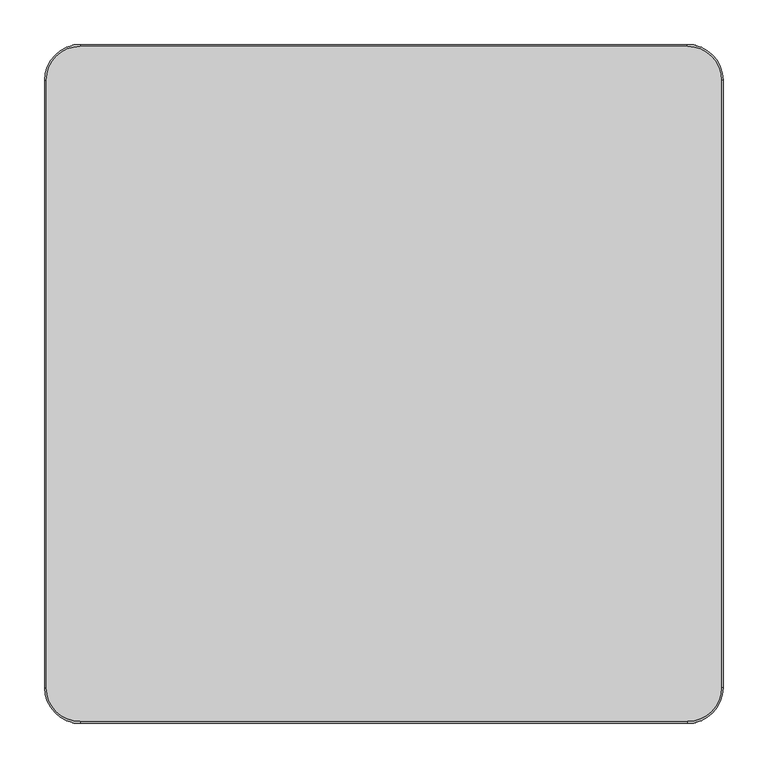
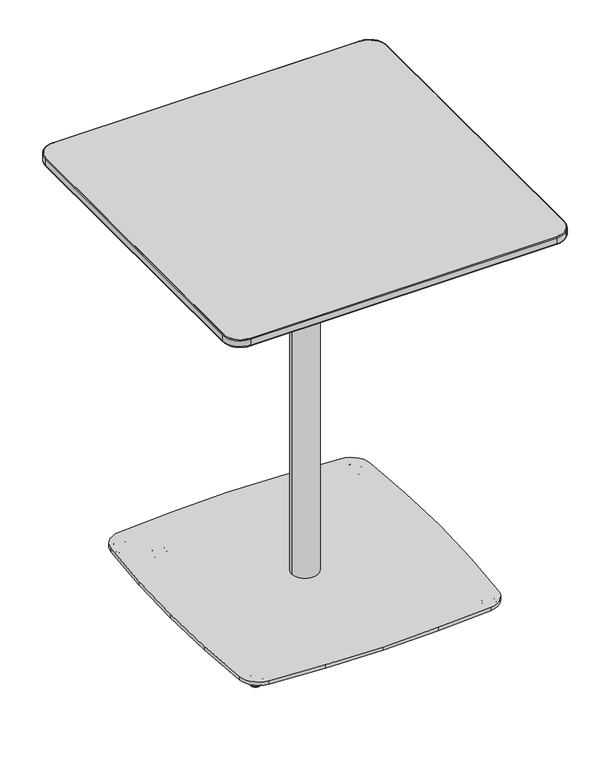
"""IFC4 building model written with IfcOpenShell, lengths in millimetres: furniture geometry, Coalesse_AM_Table_Occasional_Montara650Table_CafeHeight_Square : Counter Height - 30D x 30W."""

from ifc_helpers import new_model, si_unit, point, frame, frame_2d, origin, place, context, project, spatial, polyline, circle_curve, ellipse_curve, trimmed, segment, composite_curve, outline, extrude, source, transform, mapped, element, save
from ifc_brep_helpers import plane_surface, cylinder_surface, revolved_surface, spline_surface, advanced_brep


def furniture_3e236883(model_context):
    return source(origin(), model_context, "Body", "SolidModel", [
        advanced_brep(
        [(252.3158533, 252.1363755, 0.0), (267.0011381, 266.8216603, 0.0), (259.6584957, 259.4790179, 0.0), (251.7693511, 251.5898733, 0.5718943), (267.5476403, 267.3681625, 0.5718943), (249.470252, 249.2907742, 11.2068005), (269.8467394, 269.6672616, 11.2068005), (249.8852728, 249.705795, 11.9999882), (269.4317186, 269.2522408, 11.9999882), (259.6584957, 259.4790179, 11.9999882)],
        [
            (0, 1, circle_curve(frame((259.6584957, 259.4790179, 0.0), z_axis=(0.0, 0.0, -1.0), x_axis=(0.7071067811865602, 0.7071067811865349, 0.0)), 10.3840645)),
            (1, 2),
            (2, 0),
            (1, 0, circle_curve(frame((259.6584957, 259.4790179, 0.0), z_axis=(0.0, 0.0, -1.0), x_axis=(0.7071067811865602, 0.7071067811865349, 0.0)), 10.3840645)),
            (3, 4, circle_curve(frame((259.6584957, 259.4790179, 0.5718943), z_axis=(0.0, 0.0, -1.0), x_axis=(0.7071067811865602, 0.7071067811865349, 0.0)), 11.1569353)),
            (4, 1, circle_curve(frame((267.0011381, 266.8216603, 0.8081846), z_axis=(-0.7071067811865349, 0.7071067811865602, 0.0), x_axis=(0.7071067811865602, 0.7071067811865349, 0.0)), 0.8081846)),
            (0, 3, circle_curve(frame((252.3158533, 252.1363755, 0.8081846), z_axis=(-0.7071067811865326, 0.7071067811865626, 0.0), x_axis=(-0.7071067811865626, -0.7071067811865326, 0.0)), 0.8081846)),
            (4, 3, circle_curve(frame((259.6584957, 259.4790179, 0.5718943), z_axis=(0.0, 0.0, -1.0), x_axis=(0.7071067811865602, 0.7071067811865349, 0.0)), 11.1569353)),
            (5, 6, circle_curve(frame((259.6584957, 259.4790179, 11.2068005), z_axis=(0.0, 0.0, -1.0), x_axis=(0.7071067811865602, 0.7071067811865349, 0.0)), 14.4083524)),
            (6, 4),
            (3, 5),
            (6, 5, circle_curve(frame((259.6584957, 259.4790179, 11.2068005), z_axis=(0.0, 0.0, -1.0), x_axis=(0.7071067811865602, 0.7071067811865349, 0.0)), 14.4083524)),
            (7, 8, circle_curve(frame((259.6584957, 259.4790179, 11.9999882), z_axis=(0.0, 0.0, -1.0), x_axis=(0.7071067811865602, 0.7071067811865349, 0.0)), 13.8214243)),
            (8, 6, circle_curve(frame((269.4317186, 269.2522408, 11.3862424), z_axis=(-0.7071067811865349, 0.7071067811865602, 0.0), x_axis=(0.7071067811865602, 0.7071067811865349, 0.0)), 0.6137458)),
            (5, 7, circle_curve(frame((249.8852728, 249.705795, 11.3862424), z_axis=(-0.7071067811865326, 0.7071067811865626, 0.0), x_axis=(-0.7071067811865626, -0.7071067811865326, 0.0)), 0.6137458)),
            (8, 7, circle_curve(frame((259.6584957, 259.4790179, 11.9999882), z_axis=(0.0, 0.0, -1.0), x_axis=(0.7071067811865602, 0.7071067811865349, 0.0)), 13.8214243)),
            (9, 8),
            (7, 9),
        ],
        [
            plane_surface(frame((259.6584957, 259.4790179, 0.0), z_axis=(0.0, 0.0, -1.0000000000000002), x_axis=(0.7071067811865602, 0.7071067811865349, 0.0))),
            revolved_surface(trimmed(ellipse_curve(frame((267.0011381, 266.8216603, 0.8081846), z_axis=(0.7071067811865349, -0.7071067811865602, 0.0), x_axis=(0.7071067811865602, 0.7071067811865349, 0.0)), 0.8081846, 0.8081846), [point((267.0011381, 266.8216603, 0.0))], [point((267.5476403, 267.3681625, 0.5718943))], True, "CARTESIAN"), (259.6584957, 259.4790179, 12.2086845), (0.0, 0.0, 1.0)),
            revolved_surface(polyline([(267.5476403, 267.3681625, 0.5718943), (269.8467394, 269.6672616, 11.2068005)]), (259.6584957, 259.4790179, 12.2086845), (0.0, 0.0, 1.0)),
            revolved_surface(trimmed(ellipse_curve(frame((269.4317186, 269.2522408, 11.3862424), z_axis=(0.7071067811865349, -0.7071067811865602, 0.0), x_axis=(0.7071067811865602, 0.7071067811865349, 0.0)), 0.6137458, 0.6137458), [point((269.8467394, 269.6672616, 11.2068005))], [point((269.4317186, 269.2522408, 11.9999882))], True, "CARTESIAN"), (259.6584957, 259.4790179, 12.2086845), (0.0, 0.0, 1.0)),
            plane_surface(frame((259.6584957, 259.4790179, 11.9999882), z_axis=(0.0, 0.0, 1.0000000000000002), x_axis=(0.7071067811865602, 0.7071067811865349, 0.0))),
        ],
        [
            (0, [[1, 2, 3]]),
            (0, [[4, -3, -2]]),
            (1, [[5, 6, -1, 7]]),
            (1, [[8, -7, -4, -6]]),
            (2, [[9, 10, -5, 11]]),
            (2, [[12, -11, -8, -10]]),
            (3, [[13, 14, -9, 15]]),
            (3, [[16, -15, -12, -14]]),
            (4, [[17, -13, 18]]),
            (4, [[-18, -16, -17]]),
        ],
    ),
        advanced_brep(
        [(259.8015382, -259.9111532, 0.0), (267.1441807, -267.2537956, 0.0), (252.4588958, -252.5685107, 0.0), (267.6906828, -267.8002977, 0.5718943), (251.9123937, -252.0220086, 0.5718943), (269.9897819, -270.0993968, 11.2068005), (249.6132946, -249.7229095, 11.2068005), (269.5747611, -269.684376, 11.9999882), (250.0283154, -250.1379303, 11.9999882), (259.8015382, -259.9111532, 11.9999882)],
        [
            (0, 1),
            (1, 2, circle_curve(frame((259.8015382, -259.9111532, 0.0), z_axis=(0.0, 0.0, -1.0), x_axis=(0.7071067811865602, -0.7071067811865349, 0.0)), 10.3840645)),
            (2, 0),
            (2, 1, circle_curve(frame((259.8015382, -259.9111532, 0.0), z_axis=(0.0, 0.0, -1.0), x_axis=(0.7071067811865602, -0.7071067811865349, 0.0)), 10.3840645)),
            (1, 3, circle_curve(frame((267.1441807, -267.2537956, 0.8081846), z_axis=(-0.7071067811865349, -0.7071067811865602, 0.0), x_axis=(0.7071067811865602, -0.7071067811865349, 0.0)), 0.8081846)),
            (3, 4, circle_curve(frame((259.8015382, -259.9111532, 0.5718943), z_axis=(0.0, 0.0, -1.0), x_axis=(0.7071067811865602, -0.7071067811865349, 0.0)), 11.1569353)),
            (4, 2, circle_curve(frame((252.4588958, -252.5685107, 0.8081846), z_axis=(-0.7071067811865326, -0.7071067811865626, 0.0), x_axis=(-0.7071067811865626, 0.7071067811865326, 0.0)), 0.8081846)),
            (4, 3, circle_curve(frame((259.8015382, -259.9111532, 0.5718943), z_axis=(0.0, 0.0, -1.0), x_axis=(0.7071067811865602, -0.7071067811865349, 0.0)), 11.1569353)),
            (3, 5),
            (5, 6, circle_curve(frame((259.8015382, -259.9111532, 11.2068005), z_axis=(0.0, 0.0, -1.0), x_axis=(0.7071067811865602, -0.7071067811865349, 0.0)), 14.4083524)),
            (6, 4),
            (6, 5, circle_curve(frame((259.8015382, -259.9111532, 11.2068005), z_axis=(0.0, 0.0, -1.0), x_axis=(0.7071067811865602, -0.7071067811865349, 0.0)), 14.4083524)),
            (5, 7, circle_curve(frame((269.5747611, -269.684376, 11.3862424), z_axis=(-0.7071067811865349, -0.7071067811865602, 0.0), x_axis=(0.7071067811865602, -0.7071067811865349, 0.0)), 0.6137458)),
            (7, 8, circle_curve(frame((259.8015382, -259.9111532, 11.9999882), z_axis=(0.0, 0.0, -1.0), x_axis=(0.7071067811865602, -0.7071067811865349, 0.0)), 13.8214243)),
            (8, 6, circle_curve(frame((250.0283154, -250.1379303, 11.3862424), z_axis=(-0.7071067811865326, -0.7071067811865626, 0.0), x_axis=(-0.7071067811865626, 0.7071067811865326, 0.0)), 0.6137458)),
            (8, 7, circle_curve(frame((259.8015382, -259.9111532, 11.9999882), z_axis=(0.0, 0.0, -1.0), x_axis=(0.7071067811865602, -0.7071067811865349, 0.0)), 13.8214243)),
            (7, 9),
            (9, 8),
        ],
        [
            plane_surface(frame((259.8015382, -259.9111532, 0.0), z_axis=(0.0, 0.0, -1.0000000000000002), x_axis=(0.7071067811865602, -0.7071067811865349, 0.0))),
            revolved_surface(trimmed(ellipse_curve(frame((267.1441807, -267.2537956, 0.8081846), z_axis=(0.7071067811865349, 0.7071067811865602, 0.0), x_axis=(0.7071067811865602, -0.7071067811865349, 0.0)), 0.8081846, 0.8081846), [point((267.6906828, -267.8002977, 0.5718943))], [point((267.1441807, -267.2537956, 0.0))], True, "CARTESIAN"), (259.8015382, -259.9111532, 12.2086845), (0.0, 0.0, -1.0)),
            revolved_surface(polyline([(269.9897819, -270.0993968, 11.2068005), (267.6906828, -267.8002977, 0.5718943)]), (259.8015382, -259.9111532, 12.2086845), (0.0, 0.0, -1.0)),
            revolved_surface(trimmed(ellipse_curve(frame((269.5747611, -269.684376, 11.3862424), z_axis=(0.7071067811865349, 0.7071067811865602, 0.0), x_axis=(0.7071067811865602, -0.7071067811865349, 0.0)), 0.6137458, 0.6137458), [point((269.5747611, -269.684376, 11.9999882))], [point((269.9897819, -270.0993968, 11.2068005))], True, "CARTESIAN"), (259.8015382, -259.9111532, 12.2086845), (0.0, 0.0, -1.0)),
            plane_surface(frame((259.8015382, -259.9111532, 11.9999882), z_axis=(0.0, 0.0, 1.0000000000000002), x_axis=(0.7071067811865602, -0.7071067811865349, 0.0))),
        ],
        [
            (0, [[1, 2, 3]]),
            (0, [[-3, 4, -1]]),
            (1, [[-2, 5, 6, 7]]),
            (1, [[-4, -7, 8, -5]]),
            (2, [[-6, 9, 10, 11]]),
            (2, [[-8, -11, 12, -9]]),
            (3, [[-10, 13, 14, 15]]),
            (3, [[-12, -15, 16, -13]]),
            (4, [[-14, 17, 18]]),
            (4, [[-16, -18, -17]]),
        ],
    ),
        extrude(outline(composite_curve([segment(trimmed(circle_curve(frame_2d((-243.9942116, 243.996709)), 44.45), [point((-288.3392595, 247.0494508))], [point((-247.0469534, 288.3417568))], False, "CARTESIAN"), True, "CONTINUOUS"), segment(polyline([(-247.0469534, 288.3417568), (-126.1187996, 296.6665291), (-0.0009163, 300.0012093), (126.116967, 296.6665291), (247.0474572, 288.341596)]), True, "CONTINUOUS"), segment(trimmed(circle_curve(frame_2d((243.9947155, 243.9965482)), 44.45), [point((247.0474572, 288.341596))], [point((288.3397633, 247.0492899))], False, "CARTESIAN"), True, "CONTINUOUS"), segment(polyline([(288.3397633, 247.0492899), (296.6646964, 126.1187996), (299.9993766, 0.0009163), (296.6646964, -126.116967), (288.3399178, -247.0452123)]), True, "CONTINUOUS"), segment(trimmed(circle_curve(frame_2d((243.99487, -243.9924705)), 44.45), [point((288.3399178, -247.0452123))], [point((247.0484272, -288.3374622))], False, "CARTESIAN"), True, "CONTINUOUS"), segment(polyline([(247.0484272, -288.3374622), (126.116967, -296.6646964), (-0.0009163, -299.9993766), (-126.1187996, -296.6646964), (-247.0479234, -288.3376231)]), True, "CONTINUOUS"), segment(trimmed(circle_curve(frame_2d((-243.9943662, -243.9926314)), 44.45), [point((-247.0479234, -288.3376231))], [point((-288.339414, -247.0453732))], False, "CARTESIAN"), True, "CONTINUOUS"), segment(polyline([(-288.339414, -247.0453732), (-296.6642037, -126.116967), (-299.9988839, 0.0009163), (-296.6642037, 126.1187996), (-288.3392595, 247.0494508)]), True, "CONTINUOUS")], self_intersect=False)), frame((0.0, 0.0, 11.9999882), z_axis=(0.0, 0.0, 1.0), x_axis=(1.0, 0.0, 0.0)), (0.0, 0.0, 1.0), 8.0000083),
        advanced_brep(
        [(-259.8122576, 259.6204684, 0.0), (-267.1549, 266.9631108, 0.0), (-252.4696151, 252.277826, 0.0), (-267.7014021, 267.509613, 0.5718943), (-251.923113, 251.7313238, 0.5718943), (-270.0005012, 269.8087121, 11.2068005), (-249.6240139, 249.4322247, 11.2068005), (-269.5854804, 269.3936913, 11.9999882), (-250.0390347, 249.8472455, 11.9999882), (-259.8122576, 259.6204684, 11.9999882)],
        [
            (0, 1),
            (1, 2, circle_curve(frame((-259.8122576, 259.6204684, 0.0), z_axis=(0.0, 0.0, -1.0), x_axis=(-0.7071067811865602, 0.7071067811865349, 0.0)), 10.3840645)),
            (2, 0),
            (2, 1, circle_curve(frame((-259.8122576, 259.6204684, 0.0), z_axis=(0.0, 0.0, -1.0), x_axis=(-0.7071067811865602, 0.7071067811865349, 0.0)), 10.3840645)),
            (1, 3, circle_curve(frame((-267.1549, 266.9631108, 0.8081846), z_axis=(0.7071067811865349, 0.7071067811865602, 0.0), x_axis=(-0.7071067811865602, 0.7071067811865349, 0.0)), 0.8081846)),
            (3, 4, circle_curve(frame((-259.8122576, 259.6204684, 0.5718943), z_axis=(0.0, 0.0, -1.0), x_axis=(-0.7071067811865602, 0.7071067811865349, 0.0)), 11.1569353)),
            (4, 2, circle_curve(frame((-252.4696151, 252.277826, 0.8081846), z_axis=(0.7071067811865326, 0.7071067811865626, 0.0), x_axis=(0.7071067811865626, -0.7071067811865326, 0.0)), 0.8081846)),
            (4, 3, circle_curve(frame((-259.8122576, 259.6204684, 0.5718943), z_axis=(0.0, 0.0, -1.0), x_axis=(-0.7071067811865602, 0.7071067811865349, 0.0)), 11.1569353)),
            (3, 5),
            (5, 6, circle_curve(frame((-259.8122576, 259.6204684, 11.2068005), z_axis=(0.0, 0.0, -1.0), x_axis=(-0.7071067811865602, 0.7071067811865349, 0.0)), 14.4083524)),
            (6, 4),
            (6, 5, circle_curve(frame((-259.8122576, 259.6204684, 11.2068005), z_axis=(0.0, 0.0, -1.0), x_axis=(-0.7071067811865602, 0.7071067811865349, 0.0)), 14.4083524)),
            (5, 7, circle_curve(frame((-269.5854804, 269.3936913, 11.3862424), z_axis=(0.7071067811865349, 0.7071067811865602, 0.0), x_axis=(-0.7071067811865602, 0.7071067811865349, 0.0)), 0.6137458)),
            (7, 8, circle_curve(frame((-259.8122576, 259.6204684, 11.9999882), z_axis=(0.0, 0.0, -1.0), x_axis=(-0.7071067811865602, 0.7071067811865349, 0.0)), 13.8214243)),
            (8, 6, circle_curve(frame((-250.0390347, 249.8472455, 11.3862424), z_axis=(0.7071067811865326, 0.7071067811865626, 0.0), x_axis=(0.7071067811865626, -0.7071067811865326, 0.0)), 0.6137458)),
            (8, 7, circle_curve(frame((-259.8122576, 259.6204684, 11.9999882), z_axis=(0.0, 0.0, -1.0), x_axis=(-0.7071067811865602, 0.7071067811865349, 0.0)), 13.8214243)),
            (7, 9),
            (9, 8),
        ],
        [
            plane_surface(frame((-259.8122576, 259.6204684, 0.0), z_axis=(0.0, 0.0, -1.0000000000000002), x_axis=(-0.7071067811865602, 0.7071067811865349, 0.0))),
            revolved_surface(trimmed(ellipse_curve(frame((-267.1549, 266.9631108, 0.8081846), z_axis=(-0.7071067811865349, -0.7071067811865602, 0.0), x_axis=(-0.7071067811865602, 0.7071067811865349, 0.0)), 0.8081846, 0.8081846), [point((-267.7014021, 267.509613, 0.5718943))], [point((-267.1549, 266.9631108, 0.0))], True, "CARTESIAN"), (-259.8122576, 259.6204684, 12.2086845), (0.0, 0.0, -1.0)),
            revolved_surface(polyline([(-270.0005012, 269.8087121, 11.2068005), (-267.7014021, 267.509613, 0.5718943)]), (-259.8122576, 259.6204684, 12.2086845), (0.0, 0.0, -1.0)),
            revolved_surface(trimmed(ellipse_curve(frame((-269.5854804, 269.3936913, 11.3862424), z_axis=(-0.7071067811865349, -0.7071067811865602, 0.0), x_axis=(-0.7071067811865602, 0.7071067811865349, 0.0)), 0.6137458, 0.6137458), [point((-269.5854804, 269.3936913, 11.9999882))], [point((-270.0005012, 269.8087121, 11.2068005))], True, "CARTESIAN"), (-259.8122576, 259.6204684, 12.2086845), (0.0, 0.0, -1.0)),
            plane_surface(frame((-259.8122576, 259.6204684, 11.9999882), z_axis=(0.0, 0.0, 1.0000000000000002), x_axis=(-0.7071067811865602, 0.7071067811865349, 0.0))),
        ],
        [
            (0, [[1, 2, 3]]),
            (0, [[-3, 4, -1]]),
            (1, [[-2, 5, 6, 7]]),
            (1, [[-4, -7, 8, -5]]),
            (2, [[-6, 9, 10, 11]]),
            (2, [[-8, -11, 12, -9]]),
            (3, [[-10, 13, 14, 15]]),
            (3, [[-12, -15, 16, -13]]),
            (4, [[-14, 17, 18]]),
            (4, [[-16, -18, -17]]),
        ],
    ),
        advanced_brep(
        [(-252.8175248, -252.4969322, 0.0), (-267.5028096, -267.182217, 0.0), (-260.1601672, -259.8395746, 0.0), (-252.2710226, -251.95043, 0.5718943), (-268.0493118, -267.7287192, 0.5718943), (-249.9719235, -249.6513309, 11.2068005), (-270.3484109, -270.0278183, 11.2068005), (-250.3869443, -250.0663517, 11.9999882), (-269.9333901, -269.6127975, 11.9999882), (-260.1601672, -259.8395746, 11.9999882)],
        [
            (0, 1, circle_curve(frame((-260.1601672, -259.8395746, 0.0), z_axis=(0.0, 0.0, -1.0), x_axis=(-0.7071067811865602, -0.7071067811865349, 0.0)), 10.3840645)),
            (1, 2),
            (2, 0),
            (1, 0, circle_curve(frame((-260.1601672, -259.8395746, 0.0), z_axis=(0.0, 0.0, -1.0), x_axis=(-0.7071067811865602, -0.7071067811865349, 0.0)), 10.3840645)),
            (3, 4, circle_curve(frame((-260.1601672, -259.8395746, 0.5718943), z_axis=(0.0, 0.0, -1.0), x_axis=(-0.7071067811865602, -0.7071067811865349, 0.0)), 11.1569353)),
            (4, 1, circle_curve(frame((-267.5028096, -267.182217, 0.8081846), z_axis=(0.7071067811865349, -0.7071067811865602, 0.0), x_axis=(-0.7071067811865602, -0.7071067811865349, 0.0)), 0.8081846)),
            (0, 3, circle_curve(frame((-252.8175248, -252.4969322, 0.8081846), z_axis=(0.7071067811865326, -0.7071067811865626, 0.0), x_axis=(0.7071067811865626, 0.7071067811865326, 0.0)), 0.8081846)),
            (4, 3, circle_curve(frame((-260.1601672, -259.8395746, 0.5718943), z_axis=(0.0, 0.0, -1.0), x_axis=(-0.7071067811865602, -0.7071067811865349, 0.0)), 11.1569353)),
            (5, 6, circle_curve(frame((-260.1601672, -259.8395746, 11.2068005), z_axis=(0.0, 0.0, -1.0), x_axis=(-0.7071067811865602, -0.7071067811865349, 0.0)), 14.4083524)),
            (6, 4),
            (3, 5),
            (6, 5, circle_curve(frame((-260.1601672, -259.8395746, 11.2068005), z_axis=(0.0, 0.0, -1.0), x_axis=(-0.7071067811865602, -0.7071067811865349, 0.0)), 14.4083524)),
            (7, 8, circle_curve(frame((-260.1601672, -259.8395746, 11.9999882), z_axis=(0.0, 0.0, -1.0), x_axis=(-0.7071067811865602, -0.7071067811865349, 0.0)), 13.8214243)),
            (8, 6, circle_curve(frame((-269.9333901, -269.6127975, 11.3862424), z_axis=(0.7071067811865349, -0.7071067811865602, 0.0), x_axis=(-0.7071067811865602, -0.7071067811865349, 0.0)), 0.6137458)),
            (5, 7, circle_curve(frame((-250.3869443, -250.0663517, 11.3862424), z_axis=(0.7071067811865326, -0.7071067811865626, 0.0), x_axis=(0.7071067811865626, 0.7071067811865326, 0.0)), 0.6137458)),
            (8, 7, circle_curve(frame((-260.1601672, -259.8395746, 11.9999882), z_axis=(0.0, 0.0, -1.0), x_axis=(-0.7071067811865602, -0.7071067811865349, 0.0)), 13.8214243)),
            (9, 8),
            (7, 9),
        ],
        [
            plane_surface(frame((-260.1601672, -259.8395746, 0.0), z_axis=(0.0, 0.0, -1.0000000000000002), x_axis=(-0.7071067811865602, -0.7071067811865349, 0.0))),
            revolved_surface(trimmed(ellipse_curve(frame((-267.5028096, -267.182217, 0.8081846), z_axis=(-0.7071067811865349, 0.7071067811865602, 0.0), x_axis=(-0.7071067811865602, -0.7071067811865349, 0.0)), 0.8081846, 0.8081846), [point((-267.5028096, -267.182217, 0.0))], [point((-268.0493118, -267.7287192, 0.5718943))], True, "CARTESIAN"), (-260.1601672, -259.8395746, 12.2086845), (0.0, 0.0, 1.0)),
            revolved_surface(polyline([(-268.0493118, -267.7287192, 0.5718943), (-270.3484109, -270.0278183, 11.2068005)]), (-260.1601672, -259.8395746, 12.2086845), (0.0, 0.0, 1.0)),
            revolved_surface(trimmed(ellipse_curve(frame((-269.9333901, -269.6127975, 11.3862424), z_axis=(-0.7071067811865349, 0.7071067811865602, 0.0), x_axis=(-0.7071067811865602, -0.7071067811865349, 0.0)), 0.6137458, 0.6137458), [point((-270.3484109, -270.0278183, 11.2068005))], [point((-269.9333901, -269.6127975, 11.9999882))], True, "CARTESIAN"), (-260.1601672, -259.8395746, 12.2086845), (0.0, 0.0, 1.0)),
            plane_surface(frame((-260.1601672, -259.8395746, 11.9999882), z_axis=(0.0, 0.0, 1.0000000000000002), x_axis=(-0.7071067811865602, -0.7071067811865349, 0.0))),
        ],
        [
            (0, [[1, 2, 3]]),
            (0, [[4, -3, -2]]),
            (1, [[5, 6, -1, 7]]),
            (1, [[8, -7, -4, -6]]),
            (2, [[9, 10, -5, 11]]),
            (2, [[12, -11, -8, -10]]),
            (3, [[13, 14, -9, 15]]),
            (3, [[16, -15, -12, -14]]),
            (4, [[17, -13, 18]]),
            (4, [[-18, -16, -17]]),
        ],
    ),
        advanced_brep(
        [(-204.8873489, 205.5044028, 0.0), (-212.2299913, 212.8470453, 0.0), (-197.5447065, 198.1617604, 0.0), (-212.7764935, 213.3935474, 0.5718943), (-196.9982043, 197.6152583, 0.5718943), (-215.0755926, 215.6926465, 11.2068005), (-194.6991052, 195.3161592, 11.2068005), (-214.6605718, 215.2776257, 11.9999882), (-195.114126, 195.73118, 11.9999882), (-204.8873489, 205.5044028, 11.9999882)],
        [
            (0, 1),
            (1, 2, circle_curve(frame((-204.8873489, 205.5044028, 0.0), z_axis=(0.0, 0.0, -1.0), x_axis=(-0.7071067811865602, 0.7071067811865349, 0.0)), 10.3840645)),
            (2, 0),
            (2, 1, circle_curve(frame((-204.8873489, 205.5044028, 0.0), z_axis=(0.0, 0.0, -1.0), x_axis=(-0.7071067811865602, 0.7071067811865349, 0.0)), 10.3840645)),
            (1, 3, circle_curve(frame((-212.2299913, 212.8470453, 0.8081846), z_axis=(0.7071067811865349, 0.7071067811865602, 0.0), x_axis=(-0.7071067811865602, 0.7071067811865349, 0.0)), 0.8081846)),
            (3, 4, circle_curve(frame((-204.8873489, 205.5044028, 0.5718943), z_axis=(0.0, 0.0, -1.0), x_axis=(-0.7071067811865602, 0.7071067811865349, 0.0)), 11.1569353)),
            (4, 2, circle_curve(frame((-197.5447065, 198.1617604, 0.8081846), z_axis=(0.7071067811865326, 0.7071067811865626, 0.0), x_axis=(0.7071067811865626, -0.7071067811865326, 0.0)), 0.8081846)),
            (4, 3, circle_curve(frame((-204.8873489, 205.5044028, 0.5718943), z_axis=(0.0, 0.0, -1.0), x_axis=(-0.7071067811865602, 0.7071067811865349, 0.0)), 11.1569353)),
            (3, 5),
            (5, 6, circle_curve(frame((-204.8873489, 205.5044028, 11.2068005), z_axis=(0.0, 0.0, -1.0), x_axis=(-0.7071067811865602, 0.7071067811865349, 0.0)), 14.4083524)),
            (6, 4),
            (6, 5, circle_curve(frame((-204.8873489, 205.5044028, 11.2068005), z_axis=(0.0, 0.0, -1.0), x_axis=(-0.7071067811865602, 0.7071067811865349, 0.0)), 14.4083524)),
            (5, 7, circle_curve(frame((-214.6605718, 215.2776257, 11.3862424), z_axis=(0.7071067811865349, 0.7071067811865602, 0.0), x_axis=(-0.7071067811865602, 0.7071067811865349, 0.0)), 0.6137458)),
            (7, 8, circle_curve(frame((-204.8873489, 205.5044028, 11.9999882), z_axis=(0.0, 0.0, -1.0), x_axis=(-0.7071067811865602, 0.7071067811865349, 0.0)), 13.8214243)),
            (8, 6, circle_curve(frame((-195.114126, 195.73118, 11.3862424), z_axis=(0.7071067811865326, 0.7071067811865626, 0.0), x_axis=(0.7071067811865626, -0.7071067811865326, 0.0)), 0.6137458)),
            (8, 7, circle_curve(frame((-204.8873489, 205.5044028, 11.9999882), z_axis=(0.0, 0.0, -1.0), x_axis=(-0.7071067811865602, 0.7071067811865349, 0.0)), 13.8214243)),
            (7, 9),
            (9, 8),
        ],
        [
            plane_surface(frame((-204.8873489, 205.5044028, 0.0), z_axis=(0.0, 0.0, -1.0000000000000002), x_axis=(-0.7071067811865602, 0.7071067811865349, 0.0))),
            revolved_surface(trimmed(ellipse_curve(frame((-212.2299913, 212.8470453, 0.8081846), z_axis=(-0.7071067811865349, -0.7071067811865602, 0.0), x_axis=(-0.7071067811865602, 0.7071067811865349, 0.0)), 0.8081846, 0.8081846), [point((-212.7764935, 213.3935474, 0.5718943))], [point((-212.2299913, 212.8470453, 0.0))], True, "CARTESIAN"), (-204.8873489, 205.5044028, 12.2086845), (0.0, 0.0, -1.0)),
            revolved_surface(polyline([(-215.0755926, 215.6926465, 11.2068005), (-212.7764935, 213.3935474, 0.5718943)]), (-204.8873489, 205.5044028, 12.2086845), (0.0, 0.0, -1.0)),
            revolved_surface(trimmed(ellipse_curve(frame((-214.6605718, 215.2776257, 11.3862424), z_axis=(-0.7071067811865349, -0.7071067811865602, 0.0), x_axis=(-0.7071067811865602, 0.7071067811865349, 0.0)), 0.6137458, 0.6137458), [point((-214.6605718, 215.2776257, 11.9999882))], [point((-215.0755926, 215.6926465, 11.2068005))], True, "CARTESIAN"), (-204.8873489, 205.5044028, 12.2086845), (0.0, 0.0, -1.0)),
            plane_surface(frame((-204.8873489, 205.5044028, 11.9999882), z_axis=(0.0, 0.0, 1.0000000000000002), x_axis=(-0.7071067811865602, 0.7071067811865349, 0.0))),
        ],
        [
            (0, [[1, 2, 3]]),
            (0, [[-3, 4, -1]]),
            (1, [[-2, 5, 6, 7]]),
            (1, [[-4, -7, 8, -5]]),
            (2, [[-6, 9, 10, 11]]),
            (2, [[-8, -11, 12, -9]]),
            (3, [[-10, 13, 14, 15]]),
            (3, [[-12, -15, 16, -13]]),
            (4, [[-14, 17, 18]]),
            (4, [[-16, -18, -17]]),
        ],
    ),
        advanced_brep(
        [(316.0626362, 316.0635082, 884.430027), (316.0626362, -316.0635082, 884.430027), (-316.0626362, -316.0635082, 884.430027), (-316.0626362, 316.0635082, 884.430027), (340.788625, 378.968, 896.695891), (-340.788625, 378.968, 896.695891), (-378.888625, 340.868, 896.695891), (-378.888625, -340.868, 896.695891), (-340.788625, -378.968, 896.695891), (340.788625, -378.968, 896.695891), (378.888625, -340.868, 896.695891), (378.888625, 340.868, 896.695891)],
        [
            (0, 1),
            (1, 2),
            (2, 3),
            (3, 0),
            (4, 5),
            (5, 6, circle_curve(frame((-340.788625, 340.868, 896.695891), z_axis=(0.0, 0.0, 1.0), x_axis=(1.0, 0.0, 0.0)), 38.1)),
            (6, 7),
            (7, 8, circle_curve(frame((-340.788625, -340.868, 896.695891), z_axis=(0.0, 0.0, 1.0), x_axis=(1.0, 0.0, 0.0)), 38.1)),
            (8, 9),
            (9, 10, circle_curve(frame((340.788625, -340.868, 896.695891), z_axis=(0.0, 0.0, 1.0), x_axis=(1.0, 0.0, 0.0)), 38.1)),
            (10, 11),
            (11, 4, circle_curve(frame((340.788625, 340.868, 896.695891), z_axis=(0.0, 0.0, 1.0), x_axis=(1.0, 0.0, 0.0)), 38.1)),
            (11, 0),
            (0, 4),
            (10, 1),
            (9, 1),
            (8, 2),
            (7, 2),
            (6, 3),
            (5, 3),
        ],
        [
            plane_surface(frame((0.0, 0.0, 884.430027), z_axis=(0.0, 0.0, -1.0), x_axis=(-1.0, 0.0, 0.0))),
            plane_surface(frame((0.0, 0.0, 896.695891), z_axis=(0.0, 0.0, 1.0), x_axis=(-1.0, 0.0, 0.0))),
            spline_surface(2, 1, [[(340.788625, 378.968, 896.695891), (316.0626362, 316.0635082, 884.430027)], [(378.88862500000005, 378.9680000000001, 896.695891), (316.0626362, 316.0635082, 884.430027)], [(378.888625, 340.868, 896.695891), (316.0626362, 316.0635082, 884.430027)]], [3, 3], [2, 2], [0.0, 1.0], [0.0, 1.0], weights=[[1.0, 1.0], [0.707106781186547, 0.707106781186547], [1.0, 1.0]]),
            plane_surface(frame((378.888625, 0.0, 896.695891), z_axis=(0.1916177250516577, 0.0, -0.9814696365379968), x_axis=(0.0, -1.0, 0.0))),
            spline_surface(2, 1, [[(378.888625, -340.868, 896.695891), (316.0626362, -316.0635082, 884.430027)], [(378.88862499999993, -378.96799999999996, 896.695891), (316.0626362, -316.0635082, 884.430027)], [(340.788625, -378.968, 896.695891), (316.0626362, -316.0635082, 884.430027)]], [3, 3], [2, 2], [0.0, 1.0], [0.0, 1.0], weights=[[1.0, 1.0], [0.7071067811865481, 0.7071067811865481], [1.0, 1.0]]),
            plane_surface(frame((0.0, -378.968, 896.695891), z_axis=(0.0, -0.19138735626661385, -0.9815145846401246), x_axis=(-1.0, 0.0, 0.0))),
            spline_surface(2, 1, [[(-340.788625, -378.968, 896.695891), (-316.0626362, -316.0635082, 884.430027)], [(-378.88862500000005, -378.9680000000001, 896.695891), (-316.0626362, -316.0635082, 884.430027)], [(-378.888625, -340.868, 896.695891), (-316.0626362, -316.0635082, 884.430027)]], [3, 3], [2, 2], [0.0, 1.0], [0.0, 1.0], weights=[[1.0, 1.0], [0.707106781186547, 0.707106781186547], [1.0, 1.0]]),
            plane_surface(frame((-378.888625, 0.0, 896.695891), z_axis=(-0.1916177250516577, 0.0, -0.9814696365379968), x_axis=(0.0, 1.0, 0.0))),
            spline_surface(2, 1, [[(-378.888625, 340.868, 896.695891), (-316.0626362, 316.0635082, 884.430027)], [(-378.88862499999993, 378.96799999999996, 896.695891), (-316.0626362, 316.0635082, 884.430027)], [(-340.788625, 378.968, 896.695891), (-316.0626362, 316.0635082, 884.430027)]], [3, 3], [2, 2], [0.0, 1.0], [0.0, 1.0], weights=[[1.0, 1.0], [0.7071067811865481, 0.7071067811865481], [1.0, 1.0]]),
            plane_surface(frame((0.0, 378.968, 896.695891), z_axis=(0.0, 0.19138735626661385, -0.9815145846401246), x_axis=(1.0, 0.0, 0.0))),
        ],
        [
            (0, [[1, 2, 3, 4]]),
            (1, [[5, 6, 7, 8, 9, 10, 11, 12]]),
            (2, [[-12, 13, 14]]),
            (3, [[-11, 15, -1, -13]]),
            (4, [[-10, 16, -15]]),
            (5, [[-9, 17, -2, -16]]),
            (6, [[-8, 18, -17]]),
            (7, [[-7, 19, -3, -18]]),
            (8, [[-6, 20, -19]]),
            (9, [[-5, -14, -4, -20]]),
        ],
    ),
        extrude(outline(composite_curve([segment(trimmed(circle_curve(frame_2d((340.788625, 340.868)), 38.1), [point((340.788625, 378.968))], [point((378.888625, 340.868))], False, "CARTESIAN"), True, "CONTINUOUS"), segment(polyline([(378.888625, 340.868), (378.888625, -340.868)]), True, "CONTINUOUS"), segment(trimmed(circle_curve(frame_2d((340.788625, -340.868)), 38.1), [point((378.888625, -340.868))], [point((340.788625, -378.968))], False, "CARTESIAN"), True, "CONTINUOUS"), segment(polyline([(340.788625, -378.968), (-340.788625, -378.968)]), True, "CONTINUOUS"), segment(trimmed(circle_curve(frame_2d((-340.788625, -340.868)), 38.1), [point((-340.788625, -378.968))], [point((-378.888625, -340.868))], False, "CARTESIAN"), True, "CONTINUOUS"), segment(polyline([(-378.888625, -340.868), (-378.888625, 340.868)]), True, "CONTINUOUS"), segment(trimmed(circle_curve(frame_2d((-340.788625, 340.868)), 38.1), [point((-378.888625, 340.868))], [point((-340.788625, 378.968))], False, "CARTESIAN"), True, "CONTINUOUS"), segment(polyline([(-340.788625, 378.968), (340.788625, 378.968)]), True, "CONTINUOUS")], self_intersect=False)), frame((0.0, 0.0, 896.695891), z_axis=(0.0, 0.0, 1.0), x_axis=(1.0, 0.0, 0.0)), (0.0, 0.0, 1.0), 17.704109),
        advanced_brep(
        [(-380.9644915, 340.868, 898.6278467), (-340.788625, 381.0438665, 898.6278467), (-340.788625, 378.968, 896.695891), (-378.888625, 340.868, 896.695891), (-380.9644915, 340.868, 912.3999283), (-340.788625, 381.0438665, 912.3999283), (-378.888625, 340.868, 914.4), (-340.788625, 378.968, 914.4), (-378.888625, -340.868, 896.695891), (-380.9644915, -340.868, 898.6278467), (-380.9644915, -340.868, 912.3999283), (-378.888625, -340.868, 914.4), (-340.788625, -381.0438665, 898.6278467), (-340.788625, -378.968, 896.695891), (-340.788625, -381.0438665, 912.3999283), (-340.788625, -378.968, 914.4), (340.788625, -378.968, 896.695891), (340.788625, -381.0438665, 898.6278467), (340.788625, -381.0438665, 912.3999283), (340.788625, -378.968, 914.4), (380.9644915, -340.868, 898.6278467), (378.888625, -340.868, 896.695891), (380.9644915, -340.868, 912.3999283), (378.888625, -340.868, 914.4), (378.888625, 340.868, 896.695891), (380.9644915, 340.868, 898.6278467), (380.9644915, 340.868, 912.3999283), (378.888625, 340.868, 914.4), (340.788625, 381.0438665, 898.6278467), (340.788625, 378.968, 896.695891), (340.788625, 381.0438665, 912.3999283), (340.788625, 378.968, 914.4)],
        [
            (0, 1, circle_curve(frame((-340.788625, 340.868, 898.6278467), z_axis=(0.0, 0.0, -1.0), x_axis=(0.0, 1.0, 0.0)), 40.1758665)),
            (1, 2, circle_curve(frame((-340.788625, 379.1069224, 898.6278467), z_axis=(-1.0, 0.0, 0.0), x_axis=(0.0, -1.0, 0.0)), 1.9369441)),
            (2, 3, circle_curve(frame((-340.788625, 340.868, 896.695891), z_axis=(0.0, 0.0, 1.0), x_axis=(0.0, 1.0, 0.0)), 38.1)),
            (3, 0, circle_curve(frame((-379.0275474, 340.868, 898.6278467), z_axis=(0.0, 1.0, 0.0), x_axis=(1.0, 0.0, 0.0)), 1.9369441)),
            (4, 5, circle_curve(frame((-340.788625, 340.868, 912.3999283), z_axis=(0.0, 0.0, -1.0), x_axis=(0.0, 1.0, 0.0)), 40.1758665)),
            (5, 1),
            (0, 4),
            (6, 7, circle_curve(frame((-340.788625, 340.868, 914.4), z_axis=(0.0, 0.0, -1.0), x_axis=(0.0, 1.0, 0.0)), 38.1)),
            (7, 5, circle_curve(frame((-340.788625, 379.0424111, 912.3999283), z_axis=(-1.0, 0.0, 0.0), x_axis=(0.0, -1.0, 0.0)), 2.0014554)),
            (4, 6, circle_curve(frame((-378.9630361, 340.868, 912.3999283), z_axis=(0.0, 1.0, 0.0), x_axis=(1.0, 0.0, 0.0)), 2.0014554)),
            (2, 7),
            (6, 3),
            (3, 8),
            (8, 9, circle_curve(frame((-379.0275474, -340.868, 898.6278467), z_axis=(0.0, 1.0, 0.0), x_axis=(1.0, 0.0, 0.0)), 1.9369441)),
            (9, 0),
            (9, 10),
            (10, 4),
            (10, 11, circle_curve(frame((-378.9630361, -340.868, 912.3999283), z_axis=(0.0, 1.0, 0.0), x_axis=(1.0, 0.0, 0.0)), 2.0014554)),
            (11, 6),
            (11, 8),
            (12, 9, circle_curve(frame((-340.788625, -340.868, 898.6278467), z_axis=(0.0, 0.0, -1.0), x_axis=(-1.0, 0.0, 0.0)), 40.1758665)),
            (8, 13, circle_curve(frame((-340.788625, -340.868, 896.695891), z_axis=(0.0, 0.0, 1.0), x_axis=(-1.0, 0.0, 0.0)), 38.1)),
            (13, 12, circle_curve(frame((-340.788625, -379.1069224, 898.6278467), z_axis=(-1.0, 0.0, 0.0), x_axis=(0.0, 1.0, 0.0)), 1.9369441)),
            (14, 10, circle_curve(frame((-340.788625, -340.868, 912.3999283), z_axis=(0.0, 0.0, -1.0), x_axis=(-1.0, 0.0, 0.0)), 40.1758665)),
            (12, 14),
            (15, 11, circle_curve(frame((-340.788625, -340.868, 914.4), z_axis=(0.0, 0.0, -1.0), x_axis=(-1.0, 0.0, 0.0)), 38.1)),
            (14, 15, circle_curve(frame((-340.788625, -379.0424111, 912.3999283), z_axis=(-1.0, 0.0, 0.0), x_axis=(0.0, 1.0, 0.0)), 2.0014554)),
            (15, 13),
            (13, 16),
            (16, 17, circle_curve(frame((340.788625, -379.1069224, 898.6278467), z_axis=(-1.0, 0.0, 0.0), x_axis=(0.0, 1.0, 0.0)), 1.9369441)),
            (17, 12),
            (17, 18),
            (18, 14),
            (18, 19, circle_curve(frame((340.788625, -379.0424111, 912.3999283), z_axis=(-1.0, 0.0, 0.0), x_axis=(0.0, 1.0, 0.0)), 2.0014554)),
            (19, 15),
            (19, 16),
            (20, 17, circle_curve(frame((340.788625, -340.868, 898.6278467), z_axis=(0.0, 0.0, -1.0), x_axis=(0.0, -1.0, 0.0)), 40.1758665)),
            (16, 21, circle_curve(frame((340.788625, -340.868, 896.695891), z_axis=(0.0, 0.0, 1.0), x_axis=(0.0, -1.0, 0.0)), 38.1)),
            (21, 20, circle_curve(frame((379.0275474, -340.868, 898.6278467), z_axis=(0.0, -1.0, 0.0), x_axis=(-1.0, 0.0, 0.0)), 1.9369441)),
            (22, 18, circle_curve(frame((340.788625, -340.868, 912.3999283), z_axis=(0.0, 0.0, -1.0), x_axis=(0.0, -1.0, 0.0)), 40.1758665)),
            (20, 22),
            (23, 19, circle_curve(frame((340.788625, -340.868, 914.4), z_axis=(0.0, 0.0, -1.0), x_axis=(0.0, -1.0, 0.0)), 38.1)),
            (22, 23, circle_curve(frame((378.9630361, -340.868, 912.3999283), z_axis=(0.0, -1.0, 0.0), x_axis=(-1.0, 0.0, 0.0)), 2.0014554)),
            (23, 21),
            (21, 24),
            (24, 25, circle_curve(frame((379.0275474, 340.868, 898.6278467), z_axis=(0.0, -1.0, 0.0), x_axis=(-1.0, 0.0, 0.0)), 1.9369441)),
            (25, 20),
            (25, 26),
            (26, 22),
            (26, 27, circle_curve(frame((378.9630361, 340.868, 912.3999283), z_axis=(0.0, -1.0, 0.0), x_axis=(-1.0, 0.0, 0.0)), 2.0014554)),
            (27, 23),
            (27, 24),
            (28, 25, circle_curve(frame((340.788625, 340.868, 898.6278467), z_axis=(0.0, 0.0, -1.0), x_axis=(1.0, 0.0, 0.0)), 40.1758665)),
            (24, 29, circle_curve(frame((340.788625, 340.868, 896.695891), z_axis=(0.0, 0.0, 1.0), x_axis=(1.0, 0.0, 0.0)), 38.1)),
            (29, 28, circle_curve(frame((340.788625, 379.1069224, 898.6278467), z_axis=(1.0, 0.0, 0.0), x_axis=(0.0, -1.0, 0.0)), 1.9369441)),
            (30, 26, circle_curve(frame((340.788625, 340.868, 912.3999283), z_axis=(0.0, 0.0, -1.0), x_axis=(1.0, 0.0, 0.0)), 40.1758665)),
            (28, 30),
            (31, 27, circle_curve(frame((340.788625, 340.868, 914.4), z_axis=(0.0, 0.0, -1.0), x_axis=(1.0, 0.0, 0.0)), 38.1)),
            (30, 31, circle_curve(frame((340.788625, 379.0424111, 912.3999283), z_axis=(1.0, 0.0, 0.0), x_axis=(0.0, -1.0, 0.0)), 2.0014554)),
            (31, 29),
            (29, 2),
            (1, 28),
            (5, 30),
            (7, 31),
        ],
        [
            revolved_surface(trimmed(ellipse_curve(frame((-340.788625, 379.1069224, 898.6278467), z_axis=(1.0, 0.0, 0.0), x_axis=(0.0, -1.0, 0.0)), 1.9369441, 1.9369441), [point((-340.788625, 378.968, 896.695891))], [point((-340.788625, 381.0438665, 898.6278467))], True, "CARTESIAN"), (-340.788625, 340.868, 0.0), (0.0, 0.0, 1.0)),
            cylinder_surface(frame((-340.788625, 340.868, 0.0), z_axis=(0.0, 0.0, 1.0), x_axis=(0.0, 1.0, 0.0)), 40.1758665),
            revolved_surface(trimmed(ellipse_curve(frame((-340.788625, 379.0424111, 912.3999283), z_axis=(1.0, 0.0, 0.0), x_axis=(0.0, -1.0, 0.0)), 2.0014554, 2.0014554), [point((-340.788625, 381.0438665, 912.3999283))], [point((-340.788625, 378.968, 914.4))], True, "CARTESIAN"), (-340.788625, 340.868, 0.0), (0.0, 0.0, 1.0)),
            revolved_surface(polyline([(-340.788625, 378.968, 914.4), (-340.788625, 378.968, 896.695891)]), (-340.788625, 340.868, 0.0), (0.0, 0.0, 1.0)),
            cylinder_surface(frame((-379.0275474, 340.868, 898.6278467), z_axis=(0.0, 1.0, 0.0), x_axis=(1.0, 0.0, 0.0)), 1.9369441),
            plane_surface(frame((-380.9644915, 340.868, 898.6278467), z_axis=(-1.0, 0.0, 0.0), x_axis=(0.0, -1.0, 0.0))),
            cylinder_surface(frame((-378.9630361, 340.868, 912.3999283), z_axis=(0.0, 1.0, 0.0), x_axis=(1.0, 0.0, 0.0)), 2.0014554),
            plane_surface(frame((-378.888625, 340.868, 914.4), z_axis=(1.0, 0.0, 0.0), x_axis=(0.0, -1.0, 0.0))),
            revolved_surface(trimmed(ellipse_curve(frame((-379.0275474, -340.868, 898.6278467), z_axis=(0.0, 1.0, 0.0), x_axis=(1.0, 0.0, 0.0)), 1.9369441, 1.9369441), [point((-378.888625, -340.868, 896.695891))], [point((-380.9644915, -340.868, 898.6278467))], True, "CARTESIAN"), (-340.788625, -340.868, 0.0), (0.0, 0.0, 1.0)),
            cylinder_surface(frame((-340.788625, -340.868, 0.0), z_axis=(0.0, 0.0, 1.0), x_axis=(-1.0, 0.0, 0.0)), 40.1758665),
            revolved_surface(trimmed(ellipse_curve(frame((-378.9630361, -340.868, 912.3999283), z_axis=(0.0, 1.0, 0.0), x_axis=(1.0, 0.0, 0.0)), 2.0014554, 2.0014554), [point((-380.9644915, -340.868, 912.3999283))], [point((-378.888625, -340.868, 914.4))], True, "CARTESIAN"), (-340.788625, -340.868, 0.0), (0.0, 0.0, 1.0)),
            revolved_surface(polyline([(-378.88862500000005, -340.868, 914.4), (-378.88862500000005, -340.868, 896.695891)]), (-340.788625, -340.868, 0.0), (0.0, 0.0, 1.0)),
            cylinder_surface(frame((-340.788625, -379.1069224, 898.6278467), z_axis=(-1.0, 0.0, 0.0), x_axis=(0.0, 1.0, 0.0)), 1.9369441),
            plane_surface(frame((-340.788625, -381.0438665, 898.6278467), z_axis=(0.0, -1.0, 0.0), x_axis=(1.0, 0.0, 0.0))),
            cylinder_surface(frame((-340.788625, -379.0424111, 912.3999283), z_axis=(-1.0, 0.0, 0.0), x_axis=(0.0, 1.0, 0.0)), 2.0014554),
            plane_surface(frame((-340.788625, -378.968, 914.4), z_axis=(0.0, 1.0, 0.0), x_axis=(1.0, 0.0, 0.0))),
            revolved_surface(trimmed(ellipse_curve(frame((340.788625, -379.1069224, 898.6278467), z_axis=(-1.0, 0.0, 0.0), x_axis=(0.0, 1.0, 0.0)), 1.9369441, 1.9369441), [point((340.788625, -378.968, 896.695891))], [point((340.788625, -381.0438665, 898.6278467))], True, "CARTESIAN"), (340.788625, -340.868, 0.0), (0.0, 0.0, 1.0)),
            cylinder_surface(frame((340.788625, -340.868, 0.0), z_axis=(0.0, 0.0, 1.0), x_axis=(0.0, -1.0, 0.0)), 40.1758665),
            revolved_surface(trimmed(ellipse_curve(frame((340.788625, -379.0424111, 912.3999283), z_axis=(-1.0, 0.0, 0.0), x_axis=(0.0, 1.0, 0.0)), 2.0014554, 2.0014554), [point((340.788625, -381.0438665, 912.3999283))], [point((340.788625, -378.968, 914.4))], True, "CARTESIAN"), (340.788625, -340.868, 0.0), (0.0, 0.0, 1.0)),
            revolved_surface(polyline([(340.788625, -378.968, 914.4), (340.788625, -378.968, 896.695891)]), (340.788625, -340.868, 0.0), (0.0, 0.0, 1.0)),
            cylinder_surface(frame((379.0275474, -340.868, 898.6278467), z_axis=(0.0, -1.0, 0.0), x_axis=(-1.0, 0.0, 0.0)), 1.9369441),
            plane_surface(frame((380.9644915, -340.868, 898.6278467), z_axis=(1.0, 0.0, 0.0), x_axis=(0.0, 1.0, 0.0))),
            cylinder_surface(frame((378.9630361, -340.868, 912.3999283), z_axis=(0.0, -1.0, 0.0), x_axis=(-1.0, 0.0, 0.0)), 2.0014554),
            plane_surface(frame((378.888625, -340.868, 914.4), z_axis=(-1.0, 0.0, 0.0), x_axis=(0.0, 1.0, 0.0))),
            revolved_surface(trimmed(ellipse_curve(frame((379.0275474, 340.868, 898.6278467), z_axis=(0.0, -1.0, 0.0), x_axis=(-1.0, 0.0, 0.0)), 1.9369441, 1.9369441), [point((378.888625, 340.868, 896.695891))], [point((380.9644915, 340.868, 898.6278467))], True, "CARTESIAN"), (340.788625, 340.868, 0.0), (0.0, 0.0, 1.0)),
            cylinder_surface(frame((340.788625, 340.868, 0.0), z_axis=(0.0, 0.0, 1.0), x_axis=(1.0, 0.0, 0.0)), 40.1758665),
            revolved_surface(trimmed(ellipse_curve(frame((378.9630361, 340.868, 912.3999283), z_axis=(0.0, -1.0, 0.0), x_axis=(-1.0, 0.0, 0.0)), 2.0014554, 2.0014554), [point((380.9644915, 340.868, 912.3999283))], [point((378.888625, 340.868, 914.4))], True, "CARTESIAN"), (340.788625, 340.868, 0.0), (0.0, 0.0, 1.0)),
            revolved_surface(polyline([(378.88862500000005, 340.868, 914.4), (378.88862500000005, 340.868, 896.695891)]), (340.788625, 340.868, 0.0), (0.0, 0.0, 1.0)),
            cylinder_surface(frame((340.788625, 379.1069224, 898.6278467), z_axis=(1.0, 0.0, 0.0), x_axis=(0.0, -1.0, 0.0)), 1.9369441),
            plane_surface(frame((340.788625, 381.0438665, 898.6278467), z_axis=(0.0, 1.0, 0.0), x_axis=(-1.0, 0.0, 0.0))),
            cylinder_surface(frame((340.788625, 379.0424111, 912.3999283), z_axis=(1.0, 0.0, 0.0), x_axis=(0.0, -1.0, 0.0)), 2.0014554),
            plane_surface(frame((340.788625, 378.968, 914.4), z_axis=(0.0, -1.0, 0.0), x_axis=(-1.0, 0.0, 0.0))),
        ],
        [
            (0, [[1, 2, 3, 4]]),
            (1, [[5, 6, -1, 7]]),
            (2, [[8, 9, -5, 10]]),
            (3, [[-3, 11, -8, 12]]),
            (4, [[-4, 13, 14, 15]]),
            (5, [[-7, -15, 16, 17]]),
            (6, [[-10, -17, 18, 19]]),
            (7, [[-12, -19, 20, -13]]),
            (8, [[21, -14, 22, 23]]),
            (9, [[24, -16, -21, 25]]),
            (10, [[26, -18, -24, 27]]),
            (11, [[-22, -20, -26, 28]]),
            (12, [[-23, 29, 30, 31]]),
            (13, [[-25, -31, 32, 33]]),
            (14, [[-27, -33, 34, 35]]),
            (15, [[-28, -35, 36, -29]]),
            (16, [[37, -30, 38, 39]]),
            (17, [[40, -32, -37, 41]]),
            (18, [[42, -34, -40, 43]]),
            (19, [[-38, -36, -42, 44]]),
            (20, [[-39, 45, 46, 47]]),
            (21, [[-41, -47, 48, 49]]),
            (22, [[-43, -49, 50, 51]]),
            (23, [[-44, -51, 52, -45]]),
            (24, [[53, -46, 54, 55]]),
            (25, [[56, -48, -53, 57]]),
            (26, [[58, -50, -56, 59]]),
            (27, [[-54, -52, -58, 60]]),
            (28, [[-55, 61, -2, 62]]),
            (29, [[-57, -62, -6, 63]]),
            (30, [[-59, -63, -9, 64]]),
            (31, [[-60, -64, -11, -61]]),
        ],
    ),
        advanced_brep(
        [(131.6004101, 0.0, 881.255027), (-131.6004101, 0.0, 881.255027), (-176.1626132, 0.0, 881.255027), (176.1626132, 0.0, 881.255027), (121.0488662, 0.0, 880.1460151), (-121.0488662, 0.0, 880.1460151), (48.7461809, 0.0, 865.4837029), (-48.7461809, 0.0, 865.4837029), (37.412985, 0.0, 865.4837029), (-37.412985, 0.0, 865.4837029), (29.5495828, 0.0, 19.9999965), (-29.5495828, 0.0, 19.9999965), (-29.5495828, 0.0, 877.2852036), (29.5495828, 0.0, 877.2852036), (0.0, 0.0, 19.9999965), (176.1626132, 0.0, 884.430027), (-176.1626132, 0.0, 884.430027), (0.0, 0.0, 884.430027), (33.3511087, 0.0, 866.9383874), (-33.3511087, 0.0, 866.9383874), (31.712334, 0.0, 877.2852036), (-31.712334, 0.0, 877.2852036)],
        [
            (0, 1, circle_curve(frame((0.0, 0.0, 881.255027), z_axis=(0.0, 0.0, 1.0), x_axis=(-1.0, 0.0, 0.0)), 131.6004101)),
            (1, 2),
            (2, 3, circle_curve(frame((0.0, 0.0, 881.255027), z_axis=(0.0, 0.0, -1.0), x_axis=(-1.0, 0.0, 0.0)), 176.1626132)),
            (3, 0),
            (1, 0, circle_curve(frame((0.0, 0.0, 881.255027), z_axis=(0.0, 0.0, 1.0), x_axis=(-1.0, 0.0, 0.0)), 131.6004101)),
            (3, 2, circle_curve(frame((0.0, 0.0, 881.255027), z_axis=(0.0, 0.0, -1.0), x_axis=(-1.0, 0.0, 0.0)), 176.1626132)),
            (4, 5, circle_curve(frame((0.0, 0.0, 880.1460151), z_axis=(0.0, 0.0, 1.0), x_axis=(-1.0, 0.0, 0.0)), 121.0488662)),
            (5, 1),
            (0, 4),
            (5, 4, circle_curve(frame((0.0, 0.0, 880.1460151), z_axis=(0.0, 0.0, 1.0), x_axis=(-1.0, 0.0, 0.0)), 121.0488662)),
            (6, 7, circle_curve(frame((0.0, 0.0, 865.4837029), z_axis=(0.0, 0.0, 1.0), x_axis=(-1.0, 0.0, 0.0)), 48.7461809)),
            (7, 5),
            (4, 6),
            (7, 6, circle_curve(frame((0.0, 0.0, 865.4837029), z_axis=(0.0, 0.0, 1.0), x_axis=(-1.0, 0.0, 0.0)), 48.7461809)),
            (8, 9, circle_curve(frame((0.0, 0.0, 865.4837029), z_axis=(0.0, 0.0, 1.0), x_axis=(-1.0, 0.0, 0.0)), 37.412985)),
            (9, 7),
            (6, 8),
            (9, 8, circle_curve(frame((0.0, 0.0, 865.4837029), z_axis=(0.0, 0.0, 1.0), x_axis=(-1.0, 0.0, 0.0)), 37.412985)),
            (10, 11, circle_curve(frame((0.0, 0.0, 19.9999965), z_axis=(0.0, 0.0, 1.0), x_axis=(-1.0, 0.0, 0.0)), 29.5495828)),
            (11, 12),
            (12, 13, circle_curve(frame((0.0, 0.0, 877.2852036), z_axis=(0.0, 0.0, -1.0), x_axis=(-1.0, 0.0, 0.0)), 29.5495828)),
            (13, 10),
            (11, 10, circle_curve(frame((0.0, 0.0, 19.9999965), z_axis=(0.0, 0.0, 1.0), x_axis=(-1.0, 0.0, 0.0)), 29.5495828)),
            (13, 12, circle_curve(frame((0.0, 0.0, 877.2852036), z_axis=(0.0, 0.0, -1.0), x_axis=(-1.0, 0.0, 0.0)), 29.5495828)),
            (14, 11),
            (10, 14),
            (15, 16, circle_curve(frame((0.0, 0.0, 884.430027), z_axis=(0.0, 0.0, 1.0), x_axis=(-1.0, 0.0, 0.0)), 176.1626132)),
            (16, 17),
            (17, 15),
            (16, 15, circle_curve(frame((0.0, 0.0, 884.430027), z_axis=(0.0, 0.0, 1.0), x_axis=(-1.0, 0.0, 0.0)), 176.1626132)),
            (2, 16),
            (15, 3),
            (18, 19, circle_curve(frame((0.0, 0.0, 866.9383874), z_axis=(0.0, 0.0, 1.0), x_axis=(-1.0, 0.0, 0.0)), 33.3511087)),
            (19, 9),
            (8, 18),
            (19, 18, circle_curve(frame((0.0, 0.0, 866.9383874), z_axis=(0.0, 0.0, 1.0), x_axis=(-1.0, 0.0, 0.0)), 33.3511087)),
            (20, 21, circle_curve(frame((0.0, 0.0, 877.2852036), z_axis=(0.0, 0.0, 1.0), x_axis=(-1.0, 0.0, 0.0)), 31.712334)),
            (21, 19),
            (18, 20),
            (21, 20, circle_curve(frame((0.0, 0.0, 877.2852036), z_axis=(0.0, 0.0, 1.0), x_axis=(-1.0, 0.0, 0.0)), 31.712334)),
            (12, 21),
            (20, 13),
        ],
        [
            plane_surface(frame((0.0, 0.0, 881.255027), z_axis=(0.0, 0.0, -1.0), x_axis=(-1.0, 0.0, 0.0))),
            revolved_surface(polyline([(-131.6004101, 0.0, 881.255027), (-121.0488662, 0.0, 880.1460151)]), (0.0, 0.0, 629.5999965), (0.0, 0.0, -1.0)),
            revolved_surface(polyline([(-121.0488662, 0.0, 880.1460151), (-48.7461809, 0.0, 865.4837029)]), (0.0, 0.0, 629.5999965), (0.0, 0.0, -1.0)),
            plane_surface(frame((0.0, 0.0, 865.4837029), z_axis=(0.0, 0.0, -1.0), x_axis=(-1.0, 0.0, 0.0))),
            cylinder_surface(frame((0.0, 0.0, 629.5999965), z_axis=(0.0, 0.0, -1.0), x_axis=(-1.0, 0.0, 0.0)), 29.5495828),
            plane_surface(frame((0.0, 0.0, 19.9999965), z_axis=(0.0, 0.0, -1.0), x_axis=(-1.0, 0.0, 0.0))),
            plane_surface(frame((0.0, 0.0, 884.430027), z_axis=(0.0, 0.0, 1.0), x_axis=(-1.0, 0.0, 0.0))),
            cylinder_surface(frame((0.0, 0.0, 629.5999965), z_axis=(0.0, 0.0, -1.0), x_axis=(-1.0, 0.0, 0.0)), 176.1626132),
            revolved_surface(polyline([(-37.412985, 0.0, 865.4837029), (-33.3511087, 0.0, 866.9383874)]), (0.0, 0.0, 629.5999965), (0.0, 0.0, -1.0)),
            revolved_surface(polyline([(-33.3511087, 0.0, 866.9383874), (-31.712334, 0.0, 877.2852036)]), (0.0, 0.0, 629.5999965), (0.0, 0.0, -1.0)),
            plane_surface(frame((0.0, 0.0, 877.2852036), z_axis=(0.0, 0.0, -1.0), x_axis=(-1.0, 0.0, 0.0))),
        ],
        [
            (0, [[1, 2, 3, 4]]),
            (0, [[5, -4, 6, -2]]),
            (1, [[7, 8, -1, 9]]),
            (1, [[10, -9, -5, -8]]),
            (2, [[11, 12, -7, 13]]),
            (2, [[14, -13, -10, -12]]),
            (3, [[15, 16, -11, 17]]),
            (3, [[18, -17, -14, -16]]),
            (4, [[19, 20, 21, 22]]),
            (4, [[23, -22, 24, -20]]),
            (5, [[25, -19, 26]]),
            (5, [[-26, -23, -25]]),
            (6, [[27, 28, 29]]),
            (6, [[30, -29, -28]]),
            (7, [[-3, 31, -27, 32]]),
            (7, [[-6, -32, -30, -31]]),
            (8, [[33, 34, -15, 35]]),
            (8, [[36, -35, -18, -34]]),
            (9, [[37, 38, -33, 39]]),
            (9, [[40, -39, -36, -38]]),
            (10, [[-21, 41, -37, 42]]),
            (10, [[-24, -42, -40, -41]]),
        ],
    ),
    ])


if __name__ == "__main__":
    model = new_model("IFC4")
    model_context = context("Model", 3, world=origin())
    ifc_project = project(units=[si_unit("LENGTHUNIT", "METRE", prefix="MILLI")], contexts=[model_context])
    site = spatial("IfcSite", under=ifc_project)
    building = spatial("IfcBuilding", under=site)
    placement = place(None, origin())
    furniture_shape = furniture_3e236883(model_context)
    element("IfcFurniture", 1, ObjectType="Coalesse_AM_Table_Occasional_Montara650Table_CafeHeight_Square : Counter Height - 30D x 30W", at=placement, inside=building, context=model_context, shape_type="MappedRepresentation", body=[
        mapped(furniture_shape, transform((0.0, 0.0, 0.0), x_axis=(1.0, 0.0, 0.0), y_axis=(0.0, 1.0, 0.0), z_axis=(0.0, 0.0, 1.0))),
    ])
    save(model, "model.ifc")
